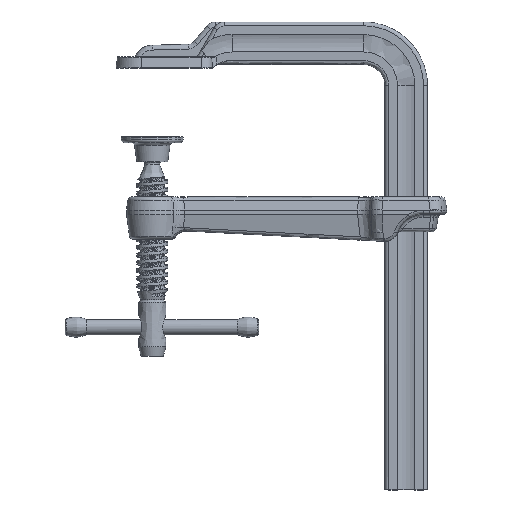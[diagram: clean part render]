
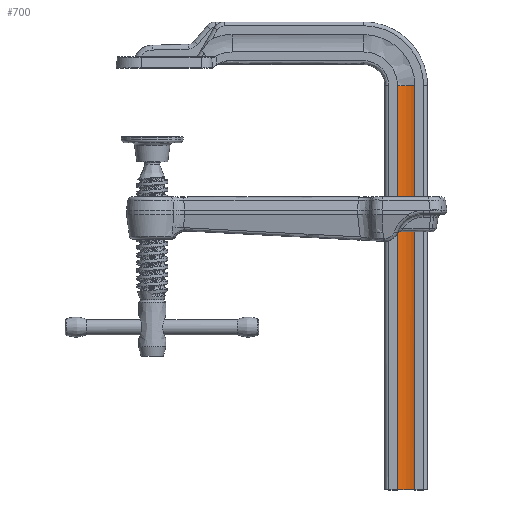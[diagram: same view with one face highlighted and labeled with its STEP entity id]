
A CAD part, top view. The second image highlights one B-rep face of the part: STEP entity #700.
In plain terms, the highlighted free-form (B-spline) face has degree [2, 1] with [3, 2] control points.
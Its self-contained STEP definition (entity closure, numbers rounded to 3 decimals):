
#245=CARTESIAN_POINT('',(4.5,15.45,5.25));
#246=VERTEX_POINT('',#245);
#247=CARTESIAN_POINT('',(4.5,-193.55,5.25));
#248=VERTEX_POINT('',#247);
#249=CARTESIAN_POINT('',(4.5,15.45,5.25));
#250=CARTESIAN_POINT('',(4.5,-193.55,5.25));
#251=B_SPLINE_CURVE_WITH_KNOTS('',1,(#249,#250),.POLYLINE_FORM.,.F.,.U.,(2,2),(0.146,0.456),.UNSPECIFIED.);
#252=EDGE_CURVE('',#246,#248,#251,.T.);
#463=CARTESIAN_POINT('',(-4.5,-193.55,5.25));
#464=VERTEX_POINT('',#463);
#470=CARTESIAN_POINT('',(-4.5,15.45,5.25));
#471=VERTEX_POINT('',#470);
#472=CARTESIAN_POINT('',(-4.5,-193.55,5.25));
#473=CARTESIAN_POINT('',(-4.5,15.45,5.25));
#474=B_SPLINE_CURVE_WITH_KNOTS('',1,(#472,#473),.POLYLINE_FORM.,.F.,.U.,(2,2),(0.547,0.873),.UNSPECIFIED.);
#475=EDGE_CURVE('',#464,#471,#474,.T.);
#677=CARTESIAN_POINT('',(-4.5,-283.55,5.25));
#678=CARTESIAN_POINT('',(-4.5,15.45,5.25));
#679=CARTESIAN_POINT('',(0.,-283.55,3.707));
#680=CARTESIAN_POINT('',(0.,15.45,3.707));
#681=CARTESIAN_POINT('',(4.5,-283.55,5.25));
#682=CARTESIAN_POINT('',(4.5,15.45,5.25));
#683=(BOUNDED_SURFACE()B_SPLINE_SURFACE(2,1,((#677,#678),(#679,#680),(#681,#682)),.CYLINDRICAL_SURF.,.F.,.F.,.U.)B_SPLINE_SURFACE_WITH_KNOTS((3,3),(2,2),(0.,0.106),(0.,0.997),.UNSPECIFIED.)GEOMETRIC_REPRESENTATION_ITEM()RATIONAL_B_SPLINE_SURFACE(((0.857,0.857),(0.876,0.876),(1.,1.)))REPRESENTATION_ITEM('')SURFACE());
#684=CARTESIAN_POINT('',(-4.5,-193.55,5.25));
#685=CARTESIAN_POINT('',(0.,-193.55,3.707));
#686=CARTESIAN_POINT('',(4.5,-193.55,5.25));
#687=(BOUNDED_CURVE()B_SPLINE_CURVE(2,(#684,#685,#686),.CIRCULAR_ARC.,.F.,.U.)B_SPLINE_CURVE_WITH_KNOTS((3,3),(0.,1.),.UNSPECIFIED.)CURVE()GEOMETRIC_REPRESENTATION_ITEM()RATIONAL_B_SPLINE_CURVE((0.857,0.876,1.))REPRESENTATION_ITEM(''));
#688=EDGE_CURVE('',#464,#248,#687,.T.);
#689=ORIENTED_EDGE('',*,*,#688,.T.);
#690=ORIENTED_EDGE('',*,*,#252,.F.);
#691=CARTESIAN_POINT('',(4.5,15.45,5.25));
#692=CARTESIAN_POINT('',(0.,15.45,3.707));
#693=CARTESIAN_POINT('',(-4.5,15.45,5.25));
#694=(BOUNDED_CURVE()B_SPLINE_CURVE(2,(#691,#692,#693),.CIRCULAR_ARC.,.F.,.U.)B_SPLINE_CURVE_WITH_KNOTS((3,3),(0.,0.106),.UNSPECIFIED.)CURVE()GEOMETRIC_REPRESENTATION_ITEM()RATIONAL_B_SPLINE_CURVE((1.,0.876,0.857))REPRESENTATION_ITEM(''));
#695=EDGE_CURVE('',#246,#471,#694,.T.);
#696=ORIENTED_EDGE('',*,*,#695,.T.);
#697=ORIENTED_EDGE('',*,*,#475,.F.);
#698=EDGE_LOOP('',(#689,#690,#696,#697));
#699=FACE_OUTER_BOUND('',#698,.T.);
#700=ADVANCED_FACE('',(#699),#683,.T.);
